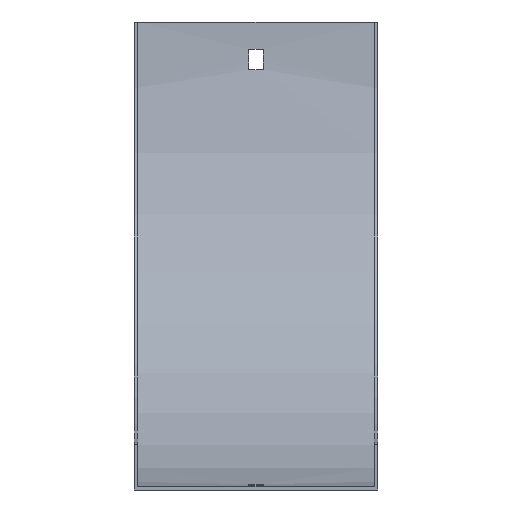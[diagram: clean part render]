
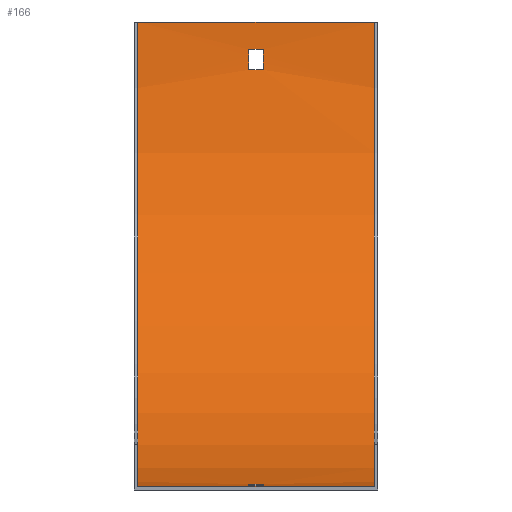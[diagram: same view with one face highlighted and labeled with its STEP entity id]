
A CAD part, front view. The second image highlights one B-rep face of the part: STEP entity #166.
In plain terms, the highlighted cylindrical face has radius 204 mm (diameter 408 mm), a partial arc.
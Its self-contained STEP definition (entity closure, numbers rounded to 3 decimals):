
#9 = LINE ( 'NONE', #148, #564 ) ;
#10 = ORIENTED_EDGE ( 'NONE', *, *, #368, .F. ) ;
#11 = CARTESIAN_POINT ( 'NONE',  ( -3.25, -205.5, 0. ) ) ;
#20 = DIRECTION ( 'NONE',  ( 0., 0., 1. ) ) ;
#21 = EDGE_CURVE ( 'NONE', #250, #146, #532, .T. ) ;
#33 = DIRECTION ( 'NONE',  ( -1., 0., 0. ) ) ;
#34 = CARTESIAN_POINT ( 'NONE',  ( 3.25, -205.5, 0. ) ) ;
#39 = LINE ( 'NONE', #463, #164 ) ;
#41 = AXIS2_PLACEMENT_3D ( 'NONE', #583, #347, #118 ) ;
#54 = VECTOR ( 'NONE', #466, 1000. ) ;
#56 = CARTESIAN_POINT ( 'NONE',  ( 53.5, -184.5, -202.916 ) ) ;
#62 = DIRECTION ( 'NONE',  ( 1., 0., 0. ) ) ;
#84 = DIRECTION ( 'NONE',  ( -1., 0., 0. ) ) ;
#91 = CARTESIAN_POINT ( 'NONE',  ( -3.25, -1.853, -12. ) ) ;
#93 = VERTEX_POINT ( 'NONE', #458 ) ;
#98 = ORIENTED_EDGE ( 'NONE', *, *, #131, .F. ) ;
#100 = DIRECTION ( 'NONE',  ( 1., 0., 0. ) ) ;
#102 = VECTOR ( 'NONE', #497, 1000. ) ;
#104 = ORIENTED_EDGE ( 'NONE', *, *, #110, .T. ) ;
#106 = ORIENTED_EDGE ( 'NONE', *, *, #21, .T. ) ;
#109 = CIRCLE ( 'NONE', #117, 204. ) ;
#110 = EDGE_CURVE ( 'NONE', #397, #93, #413, .T. ) ;
#112 = CARTESIAN_POINT ( 'NONE',  ( -3.25, -184.5, -202.916 ) ) ;
#117 = AXIS2_PLACEMENT_3D ( 'NONE', #402, #33, #20 ) ;
#118 = DIRECTION ( 'NONE',  ( 0., 0., 1. ) ) ;
#124 = DIRECTION ( 'NONE',  ( -1., 0., 0. ) ) ;
#131 = EDGE_CURVE ( 'NONE', #249, #320, #253, .T. ) ;
#137 = CARTESIAN_POINT ( 'NONE',  ( -3.25, -2.584, -21. ) ) ;
#143 = LINE ( 'NONE', #56, #316 ) ;
#146 = VERTEX_POINT ( 'NONE', #322 ) ;
#148 = CARTESIAN_POINT ( 'NONE',  ( 52., -1.5, 0. ) ) ;
#156 = CARTESIAN_POINT ( 'NONE',  ( 52., -205.5, -204. ) ) ;
#164 = VECTOR ( 'NONE', #272, 1000. ) ;
#166 = ADVANCED_FACE ( 'NONE', ( #355, #215, #309 ), #599, .F. ) ;
#169 = VERTEX_POINT ( 'NONE', #554 ) ;
#170 = CARTESIAN_POINT ( 'NONE',  ( 3.25, -184.5, -202.916 ) ) ;
#172 = CARTESIAN_POINT ( 'NONE',  ( 3.25, -205.5, 0. ) ) ;
#173 = EDGE_LOOP ( 'NONE', ( #600, #286, #98, #259 ) ) ;
#176 = CIRCLE ( 'NONE', #442, 204. ) ;
#200 = CARTESIAN_POINT ( 'NONE',  ( -52., -1.5, 0. ) ) ;
#215 = FACE_OUTER_BOUND ( 'NONE', #262, .T. ) ;
#222 = VERTEX_POINT ( 'NONE', #200 ) ;
#225 = CIRCLE ( 'NONE', #601, 204. ) ;
#237 = ORIENTED_EDGE ( 'NONE', *, *, #282, .T. ) ;
#238 = EDGE_CURVE ( 'NONE', #146, #222, #9, .T. ) ;
#246 = AXIS2_PLACEMENT_3D ( 'NONE', #270, #124, #544 ) ;
#249 = VERTEX_POINT ( 'NONE', #283 ) ;
#250 = VERTEX_POINT ( 'NONE', #156 ) ;
#253 = CIRCLE ( 'NONE', #551, 204. ) ;
#257 = CARTESIAN_POINT ( 'NONE',  ( 52., -205.5, -204. ) ) ;
#259 = ORIENTED_EDGE ( 'NONE', *, *, #325, .F. ) ;
#262 = EDGE_LOOP ( 'NONE', ( #10, #281, #106, #278 ) ) ;
#264 = DIRECTION ( 'NONE',  ( 0., 0., 1. ) ) ;
#270 = CARTESIAN_POINT ( 'NONE',  ( 53.5, -205.5, 0. ) ) ;
#272 = DIRECTION ( 'NONE',  ( -1., 0., 0. ) ) ;
#273 = LINE ( 'NONE', #472, #54 ) ;
#278 = ORIENTED_EDGE ( 'NONE', *, *, #238, .T. ) ;
#281 = ORIENTED_EDGE ( 'NONE', *, *, #385, .F. ) ;
#282 = EDGE_CURVE ( 'NONE', #381, #365, #225, .T. ) ;
#283 = CARTESIAN_POINT ( 'NONE',  ( 3.25, -2.584, -21. ) ) ;
#286 = ORIENTED_EDGE ( 'NONE', *, *, #607, .F. ) ;
#299 = CARTESIAN_POINT ( 'NONE',  ( 3.25, -1.853, -12. ) ) ;
#309 = FACE_BOUND ( 'NONE', #336, .T. ) ;
#316 = VECTOR ( 'NONE', #100, 1000. ) ;
#320 = VERTEX_POINT ( 'NONE', #299 ) ;
#322 = CARTESIAN_POINT ( 'NONE',  ( 52., -1.5, 0. ) ) ;
#325 = EDGE_CURVE ( 'NONE', #495, #249, #406, .T. ) ;
#336 = EDGE_LOOP ( 'NONE', ( #338, #237, #360, #104 ) ) ;
#338 = ORIENTED_EDGE ( 'NONE', *, *, #521, .T. ) ;
#347 = DIRECTION ( 'NONE',  ( 1., 0., 0. ) ) ;
#355 = FACE_BOUND ( 'NONE', #173, .T. ) ;
#358 = CARTESIAN_POINT ( 'NONE',  ( 53.5, -2.584, -21. ) ) ;
#359 = DIRECTION ( 'NONE',  ( 0., 0., -1. ) ) ;
#360 = ORIENTED_EDGE ( 'NONE', *, *, #585, .T. ) ;
#365 = VERTEX_POINT ( 'NONE', #112 ) ;
#368 = EDGE_CURVE ( 'NONE', #169, #222, #176, .T. ) ;
#381 = VERTEX_POINT ( 'NONE', #595 ) ;
#385 = EDGE_CURVE ( 'NONE', #250, #169, #493, .T. ) ;
#386 = DIRECTION ( 'NONE',  ( -1., 0., 0. ) ) ;
#390 = EDGE_CURVE ( 'NONE', #513, #495, #109, .T. ) ;
#394 = DIRECTION ( 'NONE',  ( 1., 0., 0. ) ) ;
#397 = VERTEX_POINT ( 'NONE', #170 ) ;
#398 = CARTESIAN_POINT ( 'NONE',  ( -52., -205.5, 0. ) ) ;
#402 = CARTESIAN_POINT ( 'NONE',  ( -3.25, -205.5, 0. ) ) ;
#406 = LINE ( 'NONE', #358, #102 ) ;
#413 = CIRCLE ( 'NONE', #475, 204. ) ;
#426 = DIRECTION ( 'NONE',  ( 0., 0., -1. ) ) ;
#439 = DIRECTION ( 'NONE',  ( 0., 0., 1. ) ) ;
#442 = AXIS2_PLACEMENT_3D ( 'NONE', #398, #394, #439 ) ;
#445 = DIRECTION ( 'NONE',  ( -1., 0., 0. ) ) ;
#446 = DIRECTION ( 'NONE',  ( 1., 0., 0. ) ) ;
#458 = CARTESIAN_POINT ( 'NONE',  ( 3.25, -193.5, -203.647 ) ) ;
#463 = CARTESIAN_POINT ( 'NONE',  ( 53.5, -193.5, -203.647 ) ) ;
#466 = DIRECTION ( 'NONE',  ( -1., 0., 0. ) ) ;
#472 = CARTESIAN_POINT ( 'NONE',  ( 53.5, -1.853, -12. ) ) ;
#475 = AXIS2_PLACEMENT_3D ( 'NONE', #34, #84, #264 ) ;
#493 = LINE ( 'NONE', #257, #526 ) ;
#495 = VERTEX_POINT ( 'NONE', #137 ) ;
#497 = DIRECTION ( 'NONE',  ( 1., 0., 0. ) ) ;
#513 = VERTEX_POINT ( 'NONE', #91 ) ;
#521 = EDGE_CURVE ( 'NONE', #93, #381, #39, .T. ) ;
#526 = VECTOR ( 'NONE', #445, 1000. ) ;
#532 = CIRCLE ( 'NONE', #41, 204. ) ;
#544 = DIRECTION ( 'NONE',  ( 0., 0., 1. ) ) ;
#551 = AXIS2_PLACEMENT_3D ( 'NONE', #172, #446, #359 ) ;
#554 = CARTESIAN_POINT ( 'NONE',  ( -52., -205.5, -204. ) ) ;
#564 = VECTOR ( 'NONE', #386, 1000. ) ;
#583 = CARTESIAN_POINT ( 'NONE',  ( 52., -205.5, 0. ) ) ;
#585 = EDGE_CURVE ( 'NONE', #365, #397, #143, .T. ) ;
#595 = CARTESIAN_POINT ( 'NONE',  ( -3.25, -193.5, -203.647 ) ) ;
#599 = CYLINDRICAL_SURFACE ( 'NONE', #246, 204. ) ;
#600 = ORIENTED_EDGE ( 'NONE', *, *, #390, .F. ) ;
#601 = AXIS2_PLACEMENT_3D ( 'NONE', #11, #62, #426 ) ;
#607 = EDGE_CURVE ( 'NONE', #320, #513, #273, .T. ) ;
